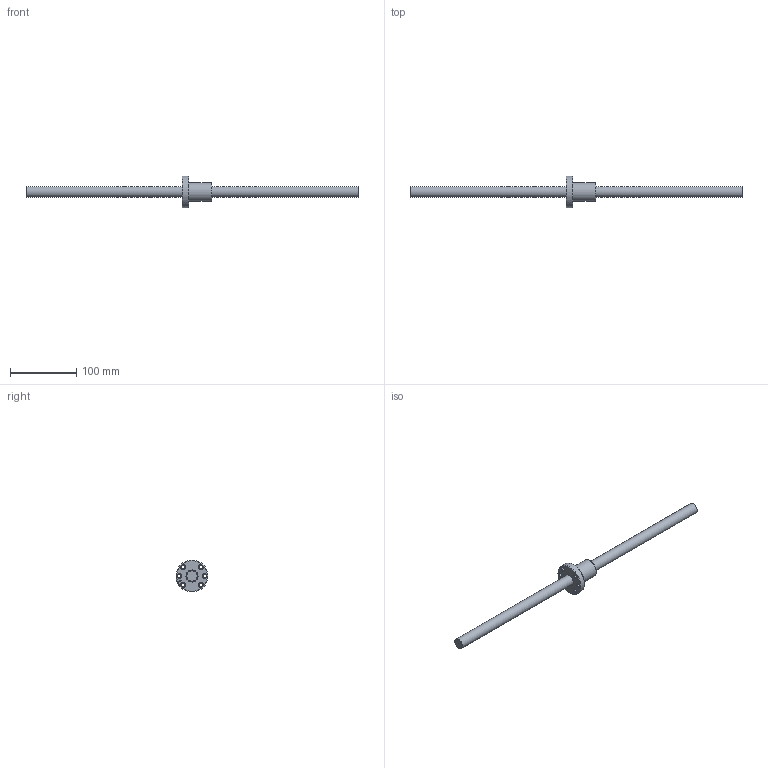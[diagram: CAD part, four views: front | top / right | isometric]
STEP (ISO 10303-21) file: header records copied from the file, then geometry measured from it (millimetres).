
FILE_DESCRIPTION (( 'STEP AP203' ), '1' );
FILE_NAME ('SFNU01605N-4.step', '2024-05-10T06:59:43', ( '' ), ( '' ), 'SwSTEP 2.0', 'SolidWorks 2022', '' );
FILE_SCHEMA (( 'CONFIG_CONTROL_DESIGN' ));
Length unit declared in the file: millimetre
Products named in the file (1): SFNU01605N-4
Bounding box: 500 x 48 x 48 mm (x, y, z)
Volume: 126544.2 mm3; surface area: 36510.7 mm2
Topology: 2 solids, 2 shells, 45 faces, 111 edges, 71 vertices
Faces by surface type: cylinder 18, cone 13, plane 6, bspline 5, torus 3
Full cylindrical faces by diameter (mm): 4 x1, 5 x6, 5.5 x6, 16 x1, 18.1 x1, 28 x1, 48 x1
Entity records: 2729 total; most frequent: CARTESIAN_POINT 1934, DIRECTION 148, ORIENTED_EDGE 102, EDGE_LOOP 84, AXIS2_PLACEMENT_3D 72, FACE_OUTER_BOUND 54, EDGE_CURVE 51, VERTEX_POINT 47
